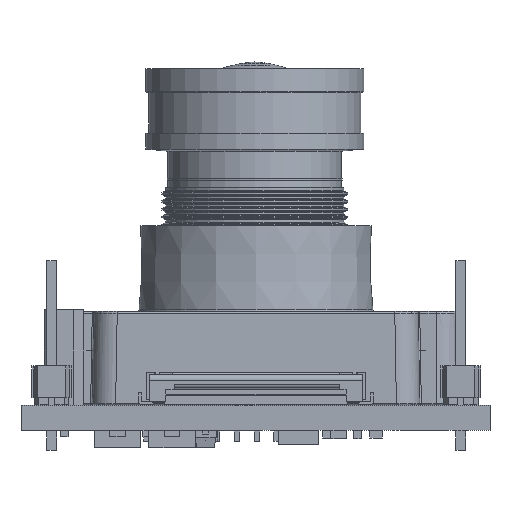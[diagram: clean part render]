
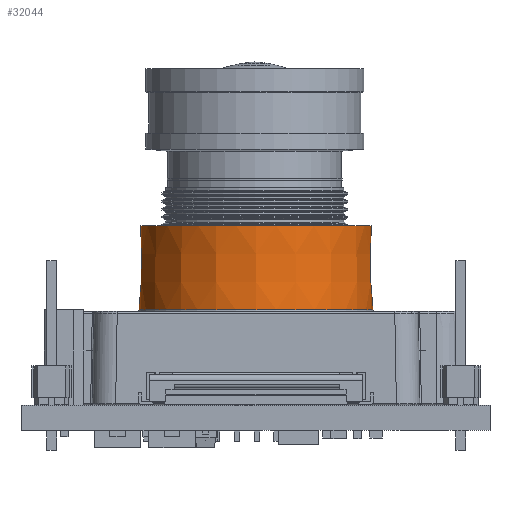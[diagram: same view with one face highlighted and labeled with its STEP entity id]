
A CAD part, front view. The second image highlights one B-rep face of the part: STEP entity #32044.
In plain terms, the highlighted conical face has half-angle 1 degrees and reference radius 7.5 mm.
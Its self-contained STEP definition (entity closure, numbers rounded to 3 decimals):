
#218=CONICAL_SURFACE('',#34576,7.5,0.017);
#993=CIRCLE('',#34510,7.498);
#994=CIRCLE('',#34511,7.498);
#1035=CIRCLE('',#34577,7.404);
#2368=FACE_OUTER_BOUND('',#4220,.T.);
#4220=EDGE_LOOP('',(#23096,#23097,#23098,#23099,#23100));
#6566=LINE('',#49241,#10412);
#10412=VECTOR('',#38745,7.5);
#13999=VERTEX_POINT('',#48914);
#14000=VERTEX_POINT('',#48916);
#14065=VERTEX_POINT('',#49240);
#17352=EDGE_CURVE('',#14000,#13999,#993,.T.);
#17353=EDGE_CURVE('',#13999,#14000,#994,.T.);
#17418=EDGE_CURVE('',#14000,#14065,#6566,.T.);
#17419=EDGE_CURVE('',#14065,#14065,#1035,.T.);
#23096=ORIENTED_EDGE('',*,*,#17353,.T.);
#23097=ORIENTED_EDGE('',*,*,#17418,.T.);
#23098=ORIENTED_EDGE('',*,*,#17419,.F.);
#23099=ORIENTED_EDGE('',*,*,#17418,.F.);
#23100=ORIENTED_EDGE('',*,*,#17352,.T.);
#32044=ADVANCED_FACE('',(#2368),#218,.T.);
#34510=AXIS2_PLACEMENT_3D('',#48917,#38611,#38612);
#34511=AXIS2_PLACEMENT_3D('',#48918,#38613,#38614);
#34576=AXIS2_PLACEMENT_3D('',#49239,#38743,#38744);
#34577=AXIS2_PLACEMENT_3D('',#49242,#38746,#38747);
#38611=DIRECTION('center_axis',(0.,0.,1.));
#38612=DIRECTION('ref_axis',(0.,-1.,0.));
#38613=DIRECTION('center_axis',(0.,0.,1.));
#38614=DIRECTION('ref_axis',(0.,-1.,0.));
#38743=DIRECTION('center_axis',(0.,0.,-1.));
#38744=DIRECTION('ref_axis',(0.,1.,0.));
#38745=DIRECTION('',(0.,0.017,1.));
#38746=DIRECTION('center_axis',(0.,0.,1.));
#38747=DIRECTION('ref_axis',(0.,1.,0.));
#48914=CARTESIAN_POINT('',(15.,25.948,6.098));
#48916=CARTESIAN_POINT('',(15.,10.952,6.098));
#48917=CARTESIAN_POINT('Origin',(15.,18.45,6.098));
#48918=CARTESIAN_POINT('Origin',(15.,18.45,6.098));
#49239=CARTESIAN_POINT('Origin',(15.,18.45,6.));
#49240=CARTESIAN_POINT('',(15.,11.046,11.5));
#49241=CARTESIAN_POINT('',(15.,10.95,6.));
#49242=CARTESIAN_POINT('Origin',(15.,18.45,11.5));
